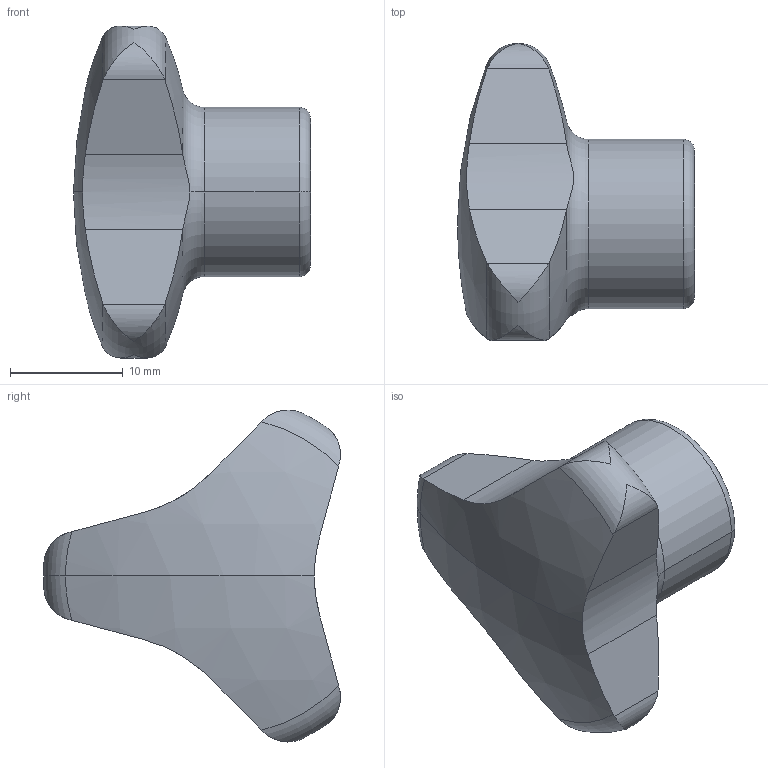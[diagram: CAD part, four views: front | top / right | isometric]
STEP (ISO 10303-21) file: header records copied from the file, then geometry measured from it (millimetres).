
FILE_DESCRIPTION (( 'STEP AP214' ), '1' );
FILE_NAME ('5345-32-M6-E.step', '2019-06-13T08:48:30', ( 'user' ), ( '' ), 'SwSTEP 2.0', 'SolidWorks 2019', '' );
FILE_SCHEMA (( 'AUTOMOTIVE_DESIGN' ));
Length unit declared in the file: millimetre
Products named in the file (1): 5345-32-M6-E
Bounding box: 21 x 26.32 x 29.41 mm (x, y, z)
Volume: 5170.1 mm3; surface area: 2218.7 mm2
Topology: 1 solids, 1 shells, 40 faces, 109 edges, 71 vertices
Faces by surface type: cylinder 16, torus 8, plane 8, sphere 6, cone 2
Entity records: 1531 total; most frequent: CARTESIAN_POINT 505, ORIENTED_EDGE 214, DIRECTION 195, EDGE_CURVE 107, AXIS2_PLACEMENT_3D 87, VERTEX_POINT 71, CIRCLE 46, EDGE_LOOP 42
